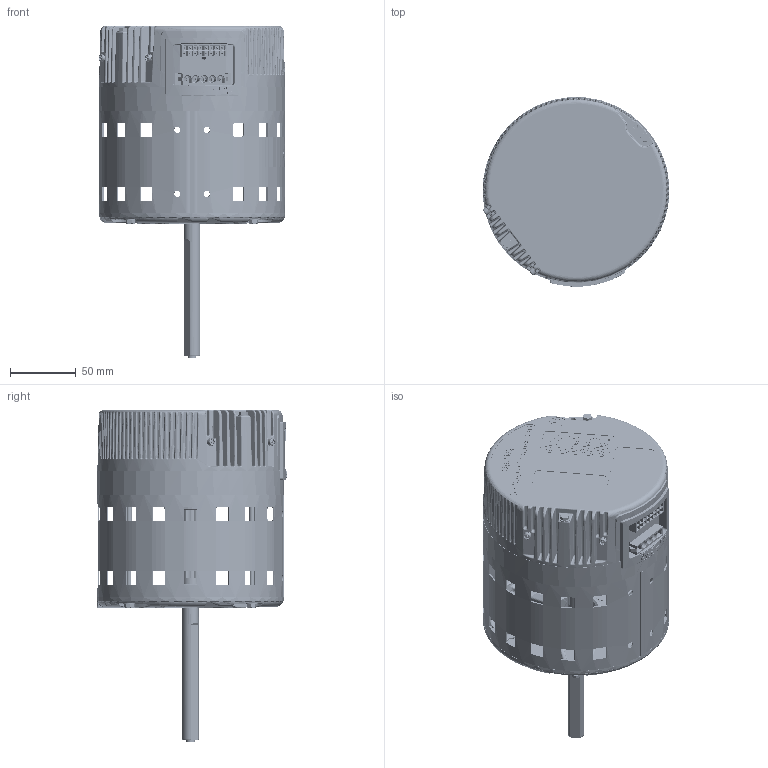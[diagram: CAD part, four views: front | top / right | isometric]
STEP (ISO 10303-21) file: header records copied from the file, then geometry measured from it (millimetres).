
FILE_DESCRIPTION (( 'STEP AP203' ), '1' );
FILE_NAME ('5SAC39DLP5009_RevA.STEP', '2022-08-05T14:32:32', ( '' ), ( '' ), 'SwSTEP 2.0', 'SolidWorks 2021', '' );
FILE_SCHEMA (( 'CONFIG_CONTROL_DESIGN' ));
Products named in the file (1): 5SAC39DLP5009_RevA
Bounding box: 141.82 x 144.12 x 252.35 mm (x, y, z)
Volume: 333368.1 mm3; surface area: 266489.6 mm2
Topology: 61 solids, 61 shells, 9990 faces, 25041 edges, 15514 vertices
Faces by surface type: plane 4748, bspline 2332, cylinder 1047, torus 948, cone 665, sphere 250
Entity records: 379663 total; most frequent: CARTESIAN_POINT 157282, ORIENTED_EDGE 49926, DIRECTION 41282, EDGE_CURVE 24963, VERTEX_POINT 15514, AXIS2_PLACEMENT_3D 14401, LINE 12480, VECTOR 12480
